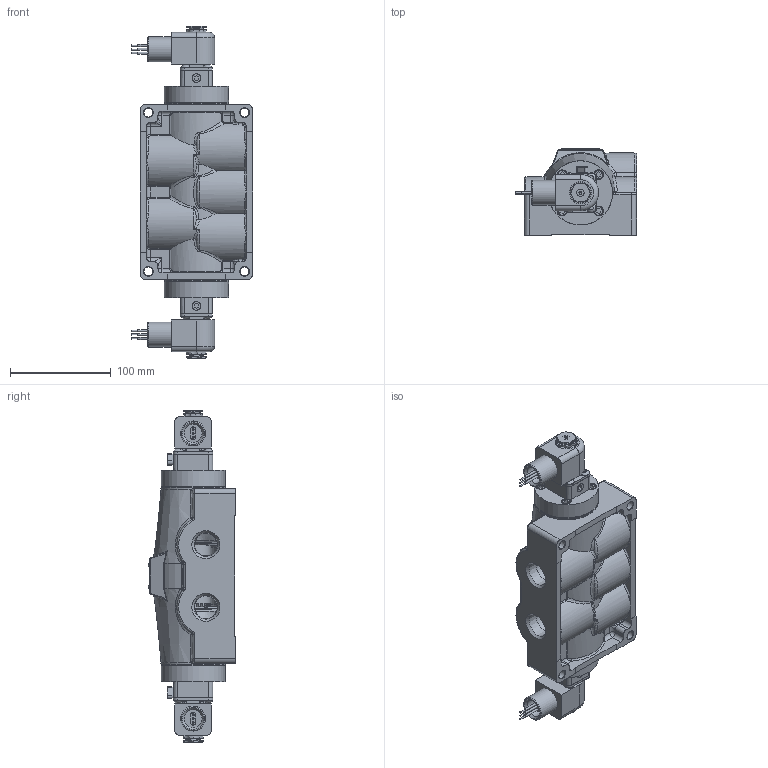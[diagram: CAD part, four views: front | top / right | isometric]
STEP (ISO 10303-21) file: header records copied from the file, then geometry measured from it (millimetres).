
FILE_DESCRIPTION(/* description */ (''),/* implementation_level */ '2;1');
FILE_NAME(/* name */ 'ESS6XOCZ.stp',/* time_stamp */ '2026-09-29T22:28:39-04:00',/* author */ ('rmckenna'),/* organization */ (''),/* preprocessor_version */ 'ST-DEVELOPER v20.2',/* originating_system */ 'Autodesk Inventor 2027',/* authorisation */ '');
FILE_SCHEMA (('AUTOMOTIVE_DESIGN { 1 0 10303 214 3 1 1 }'));
Products named in the file (1): Part8
Bounding box: 119.93 x 86.28 x 328.74 mm (x, y, z)
Volume: 1172837.3 mm3; surface area: 236716.2 mm2
Topology: 1 solids, 41 shells, 3164 faces, 7687 edges, 4753 vertices
Faces by surface type: plane 1165, cylinder 947, cone 372, bspline 344, torus 244, sphere 92
Full cylindrical faces by diameter (mm): 1.168 x20, 1.3 x2, 1.397 x2, 1.5 x2, 1.524 x6, 2.032 x22, 2.07 x2, 2.261 x2, 2.35 x8, 2.388 x2, 2.5 x2, 2.778 x2, 2.8 x2, 3 x8, 3.048 x6, 3.175 x4, 3.4 x2, 3.683 x10, 3.962 x2, 4.191 x4, 4.826 x8, 4.978 x8, 5.15 x8, 5.156 x8, 5.5 x2, 5.556 x2, 6.35 x8, 6.65 x2, 6.747 x8, 7.144 x8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
Entity records: 121261 total; most frequent: CARTESIAN_POINT 45290, ORIENTED_EDGE 15202, DIRECTION 14924, EDGE_CURVE 7601, AXIS2_PLACEMENT_3D 5812, VERTEX_POINT 4751, EDGE_LOOP 3534, LINE 3300
